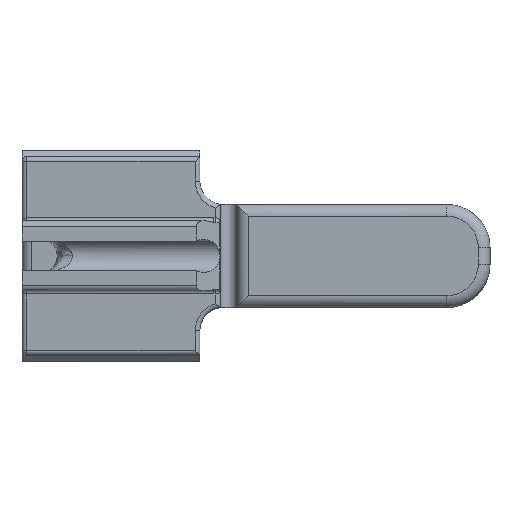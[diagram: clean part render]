
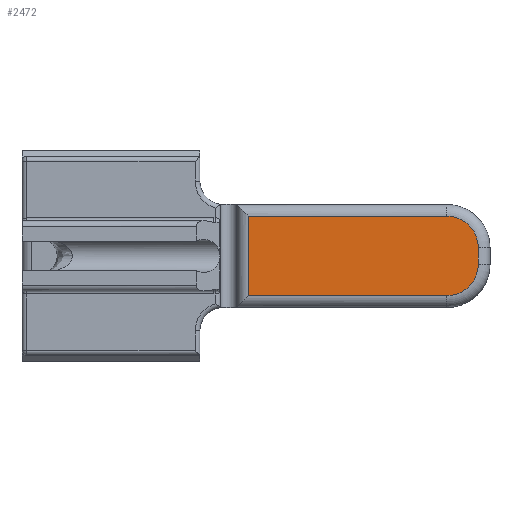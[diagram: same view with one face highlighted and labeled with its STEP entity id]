
A CAD part, top view. The second image highlights one B-rep face of the part: STEP entity #2472.
In plain terms, the highlighted planar face has unit normal (0, 0, 1).
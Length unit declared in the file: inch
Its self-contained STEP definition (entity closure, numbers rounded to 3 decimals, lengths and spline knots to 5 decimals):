
#97=PLANE('',#2673);
#170=FACE_OUTER_BOUND('',#324,.T.);
#324=EDGE_LOOP('',(#1811,#1812,#1813,#1814,#1815,#1816));
#464=CIRCLE('',#2659,0.135);
#468=CIRCLE('',#2665,0.135);
#618=LINE('',#4138,#813);
#619=LINE('',#4142,#814);
#622=LINE('',#4157,#817);
#624=LINE('',#4166,#819);
#813=VECTOR('',#3074,0.3937);
#814=VECTOR('',#3079,0.3937);
#817=VECTOR('',#3096,0.3937);
#819=VECTOR('',#3108,0.3937);
#1060=VERTEX_POINT('',#4135);
#1061=VERTEX_POINT('',#4137);
#1062=VERTEX_POINT('',#4141);
#1064=VERTEX_POINT('',#4147);
#1066=VERTEX_POINT('',#4153);
#1068=VERTEX_POINT('',#4159);
#1321=EDGE_CURVE('',#1060,#1061,#618,.T.);
#1323=EDGE_CURVE('',#1061,#1062,#619,.T.);
#1328=EDGE_CURVE('',#1062,#1064,#464,.T.);
#1331=EDGE_CURVE('',#1064,#1066,#622,.T.);
#1334=EDGE_CURVE('',#1066,#1068,#468,.T.);
#1336=EDGE_CURVE('',#1068,#1060,#624,.T.);
#1811=ORIENTED_EDGE('',*,*,#1321,.F.);
#1812=ORIENTED_EDGE('',*,*,#1336,.F.);
#1813=ORIENTED_EDGE('',*,*,#1334,.F.);
#1814=ORIENTED_EDGE('',*,*,#1331,.F.);
#1815=ORIENTED_EDGE('',*,*,#1328,.F.);
#1816=ORIENTED_EDGE('',*,*,#1323,.F.);
#2472=ADVANCED_FACE('',(#170),#97,.T.);
#2659=AXIS2_PLACEMENT_3D('',#4151,#3089,#3090);
#2665=AXIS2_PLACEMENT_3D('',#4163,#3103,#3104);
#2673=AXIS2_PLACEMENT_3D('',#4190,#3130,#3131);
#3074=DIRECTION('',(0.,1.,0.));
#3079=DIRECTION('',(1.,0.,0.));
#3089=DIRECTION('center_axis',(0.,0.,-1.));
#3090=DIRECTION('ref_axis',(0.707,0.707,0.));
#3096=DIRECTION('',(0.,-1.,0.));
#3103=DIRECTION('center_axis',(0.,0.,-1.));
#3104=DIRECTION('ref_axis',(0.707,-0.707,0.));
#3108=DIRECTION('',(-1.,0.,0.));
#3130=DIRECTION('center_axis',(0.,0.,1.));
#3131=DIRECTION('ref_axis',(1.,0.,0.));
#4135=CARTESIAN_POINT('',(3.96754,-0.17,0.37));
#4137=CARTESIAN_POINT('',(3.96754,0.17,0.37));
#4138=CARTESIAN_POINT('',(3.96754,0.,0.37));
#4141=CARTESIAN_POINT('',(4.815,0.17,0.37));
#4142=CARTESIAN_POINT('',(3.95877,0.17,0.37));
#4147=CARTESIAN_POINT('',(4.95,0.035,0.37));
#4151=CARTESIAN_POINT('Origin',(4.815,0.035,0.37));
#4153=CARTESIAN_POINT('',(4.95,-0.035,0.37));
#4157=CARTESIAN_POINT('',(4.95,0.,0.37));
#4159=CARTESIAN_POINT('',(4.815,-0.17,0.37));
#4163=CARTESIAN_POINT('Origin',(4.815,-0.035,0.37));
#4166=CARTESIAN_POINT('',(3.95877,-0.17,0.37));
#4190=CARTESIAN_POINT('Origin',(3.91754,0.,0.37));
